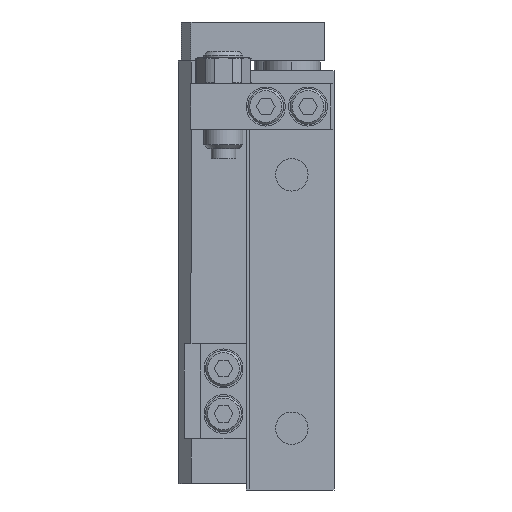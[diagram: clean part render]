
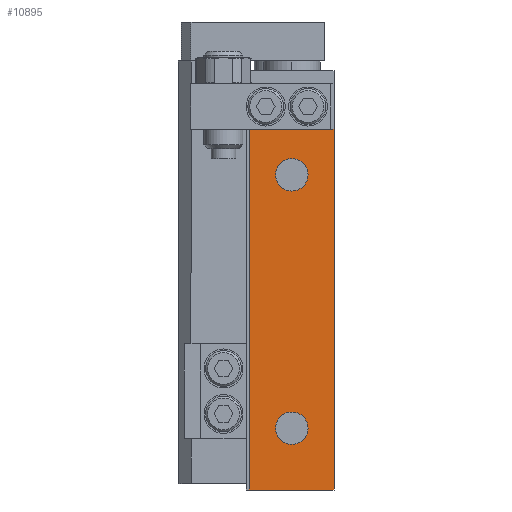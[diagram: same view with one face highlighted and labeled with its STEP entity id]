
A CAD part, left-side view. The second image highlights one B-rep face of the part: STEP entity #10895.
In plain terms, the highlighted planar face has unit normal (-1, 0, 0).
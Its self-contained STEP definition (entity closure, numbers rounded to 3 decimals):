
#301 = EDGE_CURVE ( 'NONE', #2841, #10694, #9462, .T. ) ;
#386 = EDGE_LOOP ( 'NONE', ( #1078, #13041 ) ) ;
#758 = ORIENTED_EDGE ( 'NONE', *, *, #2786, .F. ) ;
#1078 = ORIENTED_EDGE ( 'NONE', *, *, #7516, .F. ) ;
#1276 = CARTESIAN_POINT ( 'NONE',  ( -20., 6.25, -32.25 ) ) ;
#1481 = EDGE_CURVE ( 'NONE', #14193, #11455, #4126, .T. ) ;
#1564 = DIRECTION ( 'NONE',  ( 0., 0., 1. ) ) ;
#1751 = CIRCLE ( 'NONE', #10869, 2.5 ) ;
#2021 = VERTEX_POINT ( 'NONE', #4725 ) ;
#2130 = DIRECTION ( 'NONE',  ( 0., 0., -1. ) ) ;
#2594 = EDGE_CURVE ( 'NONE', #2021, #10694, #3801, .T. ) ;
#2786 = EDGE_CURVE ( 'NONE', #11455, #14193, #5491, .T. ) ;
#2797 = CARTESIAN_POINT ( 'NONE',  ( -20., -0.25, -22.75 ) ) ;
#2841 = VERTEX_POINT ( 'NONE', #14232 ) ;
#2851 = FACE_OUTER_BOUND ( 'NONE', #6702, .T. ) ;
#3089 = PLANE ( 'NONE',  #3278 ) ;
#3278 = AXIS2_PLACEMENT_3D ( 'NONE', #12396, #8780, #14649 ) ;
#3529 = DIRECTION ( 'NONE',  ( 0., 0., 1. ) ) ;
#3801 = LINE ( 'NONE', #9490, #13372 ) ;
#3875 = DIRECTION ( 'NONE',  ( -1., 0., 0. ) ) ;
#4126 = CIRCLE ( 'NONE', #10762, 2.5 ) ;
#4645 = DIRECTION ( 'NONE',  ( 0., 1., 0. ) ) ;
#4696 = VECTOR ( 'NONE', #4817, 1000. ) ;
#4725 = CARTESIAN_POINT ( 'NONE',  ( -20., 6.25, -32.25 ) ) ;
#4817 = DIRECTION ( 'NONE',  ( 0., 0., 1. ) ) ;
#5083 = ORIENTED_EDGE ( 'NONE', *, *, #301, .F. ) ;
#5105 = CARTESIAN_POINT ( 'NONE',  ( -20., -0.25, 16.25 ) ) ;
#5235 = FACE_BOUND ( 'NONE', #11807, .T. ) ;
#5491 = CIRCLE ( 'NONE', #14120, 2.5 ) ;
#5670 = CARTESIAN_POINT ( 'NONE',  ( -20., -6.75, 32.25 ) ) ;
#5856 = VERTEX_POINT ( 'NONE', #11764 ) ;
#6074 = CARTESIAN_POINT ( 'NONE',  ( -20., -6.75, -32.25 ) ) ;
#6097 = CARTESIAN_POINT ( 'NONE',  ( -20., -6.75, 23.25 ) ) ;
#6207 = CARTESIAN_POINT ( 'NONE',  ( -20., -0.25, -22.75 ) ) ;
#6421 = CARTESIAN_POINT ( 'NONE',  ( -20., -0.25, 18.75 ) ) ;
#6702 = EDGE_LOOP ( 'NONE', ( #14959, #10634, #12190, #5083 ) ) ;
#7037 = ORIENTED_EDGE ( 'NONE', *, *, #1481, .F. ) ;
#7125 = VECTOR ( 'NONE', #2130, 1000. ) ;
#7484 = EDGE_CURVE ( 'NONE', #2021, #5856, #11522, .T. ) ;
#7516 = EDGE_CURVE ( 'NONE', #7822, #9898, #11337, .T. ) ;
#7822 = VERTEX_POINT ( 'NONE', #6421 ) ;
#8030 = EDGE_CURVE ( 'NONE', #9898, #7822, #1751, .T. ) ;
#8197 = LINE ( 'NONE', #6097, #10352 ) ;
#8291 = DIRECTION ( 'NONE',  ( 0., 0., 1. ) ) ;
#8780 = DIRECTION ( 'NONE',  ( 1., 0., 0. ) ) ;
#9462 = LINE ( 'NONE', #5670, #7125 ) ;
#9490 = CARTESIAN_POINT ( 'NONE',  ( -20., -6.75, -32.25 ) ) ;
#9647 = DIRECTION ( 'NONE',  ( 0., -1., 0. ) ) ;
#9898 = VERTEX_POINT ( 'NONE', #11761 ) ;
#10352 = VECTOR ( 'NONE', #4645, 1000. ) ;
#10375 = CARTESIAN_POINT ( 'NONE',  ( -20., -0.25, 16.25 ) ) ;
#10634 = ORIENTED_EDGE ( 'NONE', *, *, #7484, .F. ) ;
#10694 = VERTEX_POINT ( 'NONE', #6074 ) ;
#10762 = AXIS2_PLACEMENT_3D ( 'NONE', #2797, #3875, #13353 ) ;
#10845 = AXIS2_PLACEMENT_3D ( 'NONE', #10375, #12923, #3529 ) ;
#10869 = AXIS2_PLACEMENT_3D ( 'NONE', #5105, #13364, #1564 ) ;
#10895 = ADVANCED_FACE ( 'NONE', ( #14879, #5235, #2851 ), #3089, .F. ) ;
#11337 = CIRCLE ( 'NONE', #10845, 2.5 ) ;
#11455 = VERTEX_POINT ( 'NONE', #13070 ) ;
#11522 = LINE ( 'NONE', #1276, #4696 ) ;
#11761 = CARTESIAN_POINT ( 'NONE',  ( -20., -0.25, 13.75 ) ) ;
#11764 = CARTESIAN_POINT ( 'NONE',  ( -20., 6.25, 23.25 ) ) ;
#11807 = EDGE_LOOP ( 'NONE', ( #7037, #758 ) ) ;
#11866 = EDGE_CURVE ( 'NONE', #2841, #5856, #8197, .T. ) ;
#12190 = ORIENTED_EDGE ( 'NONE', *, *, #2594, .T. ) ;
#12396 = CARTESIAN_POINT ( 'NONE',  ( -20., -6.75, 32.25 ) ) ;
#12923 = DIRECTION ( 'NONE',  ( -1., 0., 0. ) ) ;
#13041 = ORIENTED_EDGE ( 'NONE', *, *, #8030, .F. ) ;
#13070 = CARTESIAN_POINT ( 'NONE',  ( -20., -0.25, -25.25 ) ) ;
#13353 = DIRECTION ( 'NONE',  ( 0., 0., 1. ) ) ;
#13364 = DIRECTION ( 'NONE',  ( -1., 0., 0. ) ) ;
#13372 = VECTOR ( 'NONE', #9647, 1000. ) ;
#13929 = CARTESIAN_POINT ( 'NONE',  ( -20., -0.25, -20.25 ) ) ;
#14120 = AXIS2_PLACEMENT_3D ( 'NONE', #6207, #14400, #8291 ) ;
#14193 = VERTEX_POINT ( 'NONE', #13929 ) ;
#14232 = CARTESIAN_POINT ( 'NONE',  ( -20., -6.75, 23.25 ) ) ;
#14400 = DIRECTION ( 'NONE',  ( -1., 0., 0. ) ) ;
#14649 = DIRECTION ( 'NONE',  ( 0., 0., -1. ) ) ;
#14879 = FACE_BOUND ( 'NONE', #386, .T. ) ;
#14959 = ORIENTED_EDGE ( 'NONE', *, *, #11866, .T. ) ;
